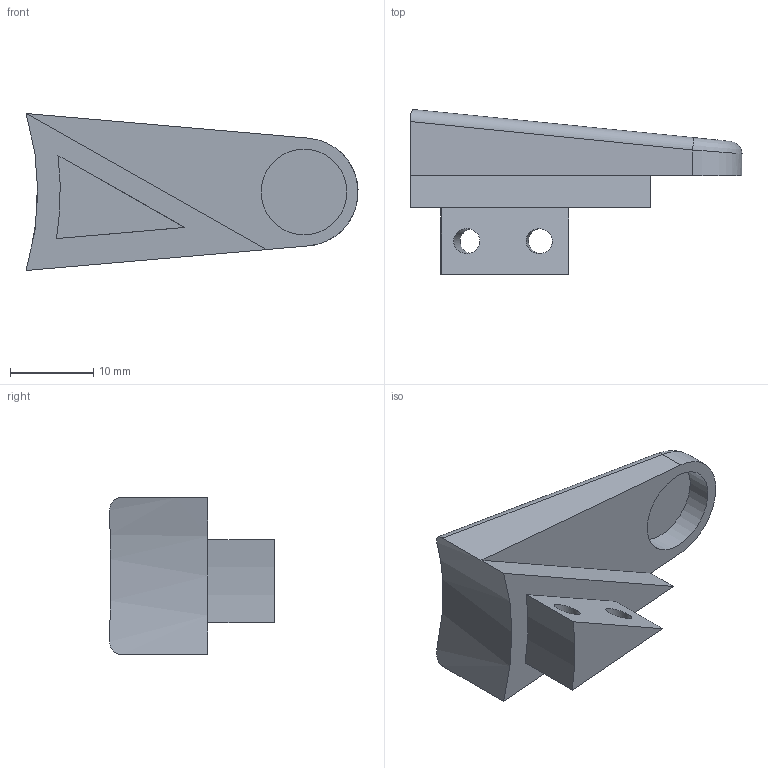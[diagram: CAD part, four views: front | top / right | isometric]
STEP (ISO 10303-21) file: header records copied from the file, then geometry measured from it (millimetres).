
FILE_DESCRIPTION(('FreeCAD Model'),'2;1');
FILE_NAME('Open CASCADE Shape Model','2026-09-18T10:54:52',('Author'),( ''),'Open CASCADE STEP processor 7.8','FreeCAD','Unknown');
FILE_SCHEMA(('AUTOMOTIVE_DESIGN { 1 0 10303 214 1 1 1 1 }'));
Length unit declared in the file: millimetre
Products named in the file (1): Body
Bounding box: 39.91 x 19.81 x 18.87 mm (x, y, z)
Volume: 4787.4 mm3; surface area: 2593.3 mm2
Topology: 1 solids, 1 shells, 19 faces, 42 edges, 27 vertices
Faces by surface type: plane 10, cylinder 8, bspline 1
Full cylindrical faces by diameter (mm): 3 x2, 10.3 x1
Entity records: 638 total; most frequent: CARTESIAN_POINT 190, DIRECTION 87, ORIENTED_EDGE 84, EDGE_CURVE 42, AXIS2_PLACEMENT_3D 31, VERTEX_POINT 27, FACE_BOUND 25, EDGE_LOOP 25
